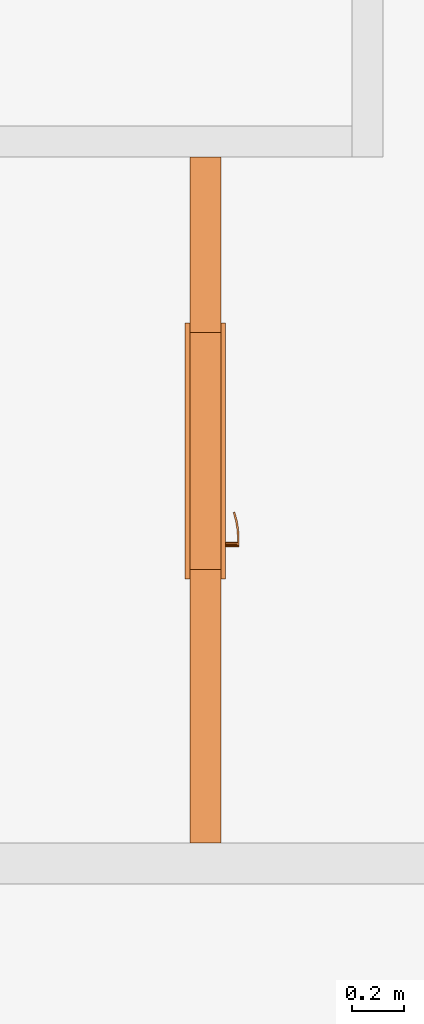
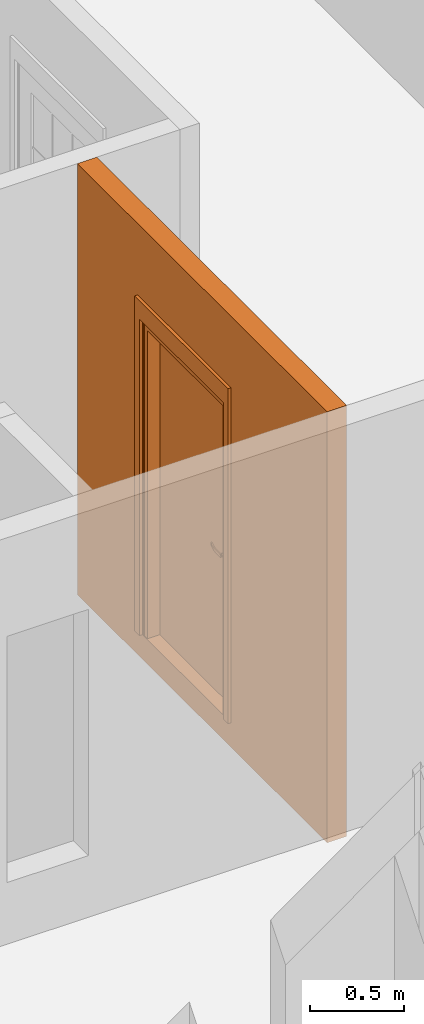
# One storey, part 27 of 61: 2 proxies, 1 opening.
"""IFC2X3 building model written with IfcOpenShell, lengths in millimetres."""

from ifc_helpers import new_model, entity, si_unit, converted_unit, derived_unit, money_unit, direction, frame, origin_with_axes, origin_2d_with_axis, place, context, subcontext, project, spatial, rectangle, extrude, open_shell, faceted_brep, surface_model, source, transform, mapped, material, type_object, element, fill, save


model = new_model("IFC2X3")

# Units and contexts
model_context = context("Model", 3, precision=0.01, world=origin_with_axes(), true_north=direction((0.34421633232, 0.938890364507)))
body_context = subcontext(model_context, "Body", "Model", "MODEL_VIEW")
ifc_project = project(units=[si_unit("LENGTHUNIT", "METRE", prefix="MILLI"), si_unit("AREAUNIT", "SQUARE_METRE"), si_unit("VOLUMEUNIT", "CUBIC_METRE"), converted_unit("PLANEANGLEUNIT", "DEGREE", entity("IfcPlaneAngleMeasure", 0.0174532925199), si_unit("PLANEANGLEUNIT", "RADIAN"), dimensions=[0, 0, 0, 0, 0, 0, 0]), si_unit("SOLIDANGLEUNIT", "STERADIAN"), money_unit("USD"), converted_unit("TIMEUNIT", "Year", entity("IfcTimeMeasure", 31556926.0), si_unit("TIMEUNIT", "SECOND"), dimensions=[0, 0, 1, 0, 0, 0, 0]), si_unit("MASSUNIT", "GRAM", prefix="KILO"), si_unit("THERMODYNAMICTEMPERATUREUNIT", "DEGREE_CELSIUS"), si_unit("LUMINOUSINTENSITYUNIT", "LUMEN"), si_unit("ENERGYUNIT", "JOULE", prefix="MEGA"), derived_unit("THERMALCONDUCTANCEUNIT", [(si_unit("POWERUNIT", "WATT"), 1), (si_unit("LENGTHUNIT", "METRE"), -1), (si_unit("THERMODYNAMICTEMPERATUREUNIT", "KELVIN"), -1)]), derived_unit("SPECIFICHEATCAPACITYUNIT", [(si_unit("ENERGYUNIT", "JOULE"), 1), (si_unit("MASSUNIT", "GRAM", prefix="KILO"), -1), (si_unit("THERMODYNAMICTEMPERATUREUNIT", "KELVIN"), -1)]), derived_unit("MASSDENSITYUNIT", [(si_unit("MASSUNIT", "GRAM", prefix="KILO"), 1), (si_unit("VOLUMEUNIT", "CUBIC_METRE"), -1)])], contexts=[model_context])

# Site, building, storey
site_placement = place(None, origin_with_axes())
site = spatial("IfcSite", under=ifc_project, at=site_placement, Name="USTRONIE MORSKIE", CompositionType="ELEMENT")
building_placement = place(site_placement, origin_with_axes())
building = spatial("IfcBuilding", under=site, at=building_placement, Name="Budynek", CompositionType="ELEMENT")
storey_placement = place(building_placement, frame((0.0, 0.0, 13000.0), z_axis=(0.0, 0.0, 1.0), x_axis=(1.0, 0.0, 0.0)))
storey = spatial("IfcBuildingStorey", under=building, at=storey_placement, Name="PIĘTRO 4", CompositionType="ELEMENT", Elevation=13000.0)

# Proxies, opening
ifc_material = material(Name="Bloczki silikatowe")
building_element_proxy_type_1 = type_object("IfcBuildingElementProxyType", Name="Bloczki silikatowe 120", PredefinedType="NOTDEFINED")
proxy_1_placement = place(storey_placement, frame((404537.920919, 739651.199937, -160.0), z_axis=(0.0, 0.0, 1.0), x_axis=(0.0, -1.0, 0.0)))
proxy_1 = element("IfcBuildingElementProxy", 1, at=proxy_1_placement, inside=storey, type_object=building_element_proxy_type_1, material=ifc_material, Name="SW-04", context=body_context, shape_type="Brep", body=[
    faceted_brep([(2720.00090117, 60.0, 0.0), (2720.00090117, -60.0, 0.0), (59.9999999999, -60.0, 0.0), (59.9999999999, 60.0, 0.0), (2720.00090117, 60.0, 2800.0), (2720.00090117, -60.0, 2800.0), (59.9999999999, -60.0, 2800.0), (59.9999999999, 60.0, 2800.0)], [[[0, 1, 2, 3]], [[1, 0, 4, 5]], [[1, 5, 6, 2]], [[7, 3, 2, 6]], [[4, 0, 3, 7]], [[5, 4, 7, 6]]]),
])
opening_placement = place(proxy_1_placement, frame((1200.00090117, 0.0, 160.0), z_axis=(0.0, 0.0, 1.0), x_axis=(1.0, 0.0, 0.0)))
opening = element("IfcOpeningElement", 2, at=opening_placement, cuts=proxy_1, Name="Dw.4", context=body_context, shape_type="SweptSolid", body=[
    extrude(rectangle(XDim=920.0, YDim=2070.0, at=origin_2d_with_axis()), frame((0.0, -120.0, 1035.0), z_axis=(0.0, -1.0, 0.0), x_axis=(-1.0, 0.0, 0.0)), (0.0, 0.0, -1.0), 360.0),
    extrude(rectangle(XDim=994.0, YDim=2177.0, at=origin_2d_with_axis()), frame((0.0, -60.0, 1088.5), z_axis=(0.0, -1.0, 0.0), x_axis=(-1.0, 0.0, 0.0)), (0.0, 0.0, 1.0), 120.0),
    extrude(rectangle(XDim=994.0, YDim=2177.0, at=origin_2d_with_axis()), frame((0.0, 60.0, 1088.5), z_axis=(0.0, 1.0, 0.0), x_axis=(-1.0, 0.0, 0.0)), (0.0, 0.0, 1.0), 120.0),
])
building_element_proxy_type_2 = type_object("IfcBuildingElementProxyType", Name="Drzwi 23", PredefinedType="NOTDEFINED")
shared_shape = source(origin_with_axes(), body_context, "Body", "SurfaceModel", [
    faceted_brep([(460.0, -115.0, 0.0), (460.0, -120.0, 0.0), (435.0, -120.0, 0.0), (435.0, -115.0, 0.0), (460.0, -115.0, 2070.0), (460.0, -120.0, 2070.0), (435.0, -120.0, 2045.0), (435.0, -115.0, 2045.0)], [[[0, 1, 2, 3]], [[4, 5, 1, 0]], [[1, 5, 6, 2]], [[3, 2, 6, 7]], [[0, 3, 7, 4]], [[7, 6, 5, 4]]]),
    faceted_brep([(-460.0, -115.0, 2070.0), (-460.0, -120.0, 2070.0), (-435.0, -120.0, 2045.0), (-435.0, -115.0, 2045.0), (-460.0, -115.0, 0.0), (-460.0, -120.0, 0.0), (-435.0, -120.0, 0.0), (-435.0, -115.0, 0.0)], [[[0, 1, 2, 3]], [[4, 5, 1, 0]], [[1, 5, 6, 2]], [[3, 2, 6, 7]], [[0, 3, 7, 4]], [[7, 6, 5, 4]]]),
    faceted_brep([(435.0, -115.0, 2045.0), (435.0, -120.0, 2045.0), (-435.0, -120.0, 2045.0), (-435.0, -115.0, 2045.0), (460.0, -115.0, 2070.0), (460.0, -120.0, 2070.0), (-460.0, -120.0, 2070.0), (-460.0, -115.0, 2070.0)], [[[0, 1, 2, 3]], [[4, 5, 1, 0]], [[1, 5, 6, 2]], [[3, 2, 6, 7]], [[0, 3, 7, 4]], [[7, 6, 5, 4]]]),
    faceted_brep([(497.0, -139.0, 0.0), (447.0, -139.0, 0.0), (447.0, -120.0, 0.0), (497.0, -120.0, 0.0), (497.0, -139.0, 2177.0), (447.0, -139.0, 2057.0), (447.0, -120.0, 2057.0), (497.0, -120.0, 2177.0)], [[[0, 1, 2, 3]], [[0, 4, 5, 1]], [[1, 5, 6, 2]], [[3, 2, 6, 7]], [[4, 0, 3, 7]], [[5, 4, 7, 6]]]),
    faceted_brep([(-497.0, -139.0, 2177.0), (-447.0, -139.0, 2057.0), (-447.0, -120.0, 2057.0), (-497.0, -120.0, 2177.0), (-497.0, -139.0, 0.0), (-447.0, -139.0, 0.0), (-447.0, -120.0, 0.0), (-497.0, -120.0, 0.0)], [[[0, 1, 2, 3]], [[0, 4, 5, 1]], [[1, 5, 6, 2]], [[3, 2, 6, 7]], [[4, 0, 3, 7]], [[5, 4, 7, 6]]]),
    faceted_brep([(497.0, -139.0, 2177.0), (447.0, -139.0, 2057.0), (447.0, -120.0, 2057.0), (497.0, -120.0, 2177.0), (-497.0, -139.0, 2177.0), (-447.0, -139.0, 2057.0), (-447.0, -120.0, 2057.0), (-497.0, -120.0, 2177.0)], [[[0, 1, 2, 3]], [[0, 4, 5, 1]], [[1, 5, 6, 2]], [[3, 2, 6, 7]], [[4, 0, 3, 7]], [[5, 4, 7, 6]]]),
    faceted_brep([(497.0, 19.0, 0.0), (497.0, 0.0, 0.0), (447.0, 0.0, 0.0), (447.0, 19.0, 0.0), (497.0, 19.0, 2177.0), (497.0, 0.0, 2177.0), (447.0, 0.0, 2057.0), (447.0, 19.0, 2057.0)], [[[0, 1, 2, 3]], [[4, 5, 1, 0]], [[1, 5, 6, 2]], [[3, 2, 6, 7]], [[0, 3, 7, 4]], [[7, 6, 5, 4]]]),
    faceted_brep([(-497.0, 19.0, 2177.0), (-497.0, 0.0, 2177.0), (-447.0, 0.0, 2057.0), (-447.0, 19.0, 2057.0), (-497.0, 19.0, 0.0), (-497.0, 0.0, 0.0), (-447.0, 0.0, 0.0), (-447.0, 19.0, 0.0)], [[[0, 1, 2, 3]], [[4, 5, 1, 0]], [[1, 5, 6, 2]], [[3, 2, 6, 7]], [[0, 3, 7, 4]], [[7, 6, 5, 4]]]),
    faceted_brep([(497.0, 19.0, 2177.0), (497.0, 0.0, 2177.0), (447.0, 0.0, 2057.0), (447.0, 19.0, 2057.0), (-497.0, 19.0, 2177.0), (-497.0, 0.0, 2177.0), (-447.0, 0.0, 2057.0), (-447.0, 19.0, 2057.0)], [[[0, 1, 2, 3]], [[4, 5, 1, 0]], [[1, 5, 6, 2]], [[3, 2, 6, 7]], [[0, 3, 7, 4]], [[7, 6, 5, 4]]]),
    faceted_brep([(400.0, -40.0, 0.0), (400.0, -115.0, 0.0), (400.0, -115.0, 2000.0), (400.0, -40.0, 2000.0), (412.0, -40.0, 0.0), (412.0, 0.0, 0.0), (460.0, 0.0, 0.0), (460.0, -115.0, 0.0), (460.0, -115.0, 2000.0), (412.0, -40.0, 2000.0), (460.0, 0.0, 2000.0), (412.0, 0.0, 2000.0)], [[[0, 1, 2, 3]], [[4, 5, 6, 7, 1, 0]], [[1, 7, 8, 2]], [[9, 3, 2, 8, 10, 11]], [[9, 4, 0, 3]], [[11, 5, 4, 9]], [[11, 10, 6, 5]], [[6, 10, 8, 7]]]),
    faceted_brep([(-412.0, -40.0, 2000.0), (-412.0, 0.0, 2000.0), (-460.0, 0.0, 2000.0), (-460.0, -115.0, 2000.0), (-400.0, -115.0, 2000.0), (-400.0, -40.0, 2000.0), (-412.0, -40.0, 0.0), (-412.0, 0.0, 0.0), (-460.0, 0.0, 0.0), (-460.0, -115.0, 0.0), (-400.0, -115.0, 0.0), (-400.0, -40.0, 0.0)], [[[0, 1, 2, 3, 4, 5]], [[0, 6, 7, 1]], [[7, 8, 2, 1]], [[2, 8, 9, 3]], [[3, 9, 10, 4]], [[5, 4, 10, 11]], [[5, 11, 6, 0]], [[6, 11, 10, 9, 8, 7]]]),
    faceted_brep([(412.0, 0.0, 2012.0), (-412.0, 0.0, 2012.0), (-412.0, 0.0, 2000.0), (-460.0, 0.0, 2000.0), (-460.0, 0.0, 2070.0), (460.0, 0.0, 2070.0), (460.0, 0.0, 2000.0), (412.0, 0.0, 2000.0), (412.0, -40.0, 2012.0), (-412.0, -40.0, 2012.0), (-412.0, -40.0, 2000.0), (-400.0, -40.0, 2000.0), (-400.0, -115.0, 2000.0), (-460.0, -115.0, 2000.0), (-460.0, -115.0, 2070.0), (460.0, -115.0, 2070.0), (460.0, -115.0, 2000.0), (412.0, -40.0, 2000.0), (400.0, -115.0, 2000.0), (400.0, -40.0, 2000.0)], [[[0, 1, 2, 3, 4, 5, 6, 7]], [[0, 8, 9, 1]], [[1, 9, 10, 2]], [[10, 11, 12, 13, 3, 2]], [[4, 3, 13, 14]], [[5, 4, 14, 15]], [[6, 5, 15, 16]], [[17, 7, 6, 16, 18, 19]], [[7, 17, 8, 0]], [[10, 9, 8, 17, 19, 11]], [[19, 18, 12, 11]], [[12, 18, 16, 15, 14, 13]]]),
    faceted_brep([(390.5, -40.0, 1060.0), (333.5, -40.0, 1060.0), (333.5, -43.0, 1060.0), (390.5, -43.0, 1060.0), (390.5, -40.0, 870.0), (333.5, -40.0, 870.0), (333.5, -43.0, 870.0), (390.5, -43.0, 870.0)], [[[0, 1, 2, 3]], [[0, 4, 5, 1]], [[1, 5, 6, 2]], [[3, 2, 6, 7]], [[4, 0, 3, 7]], [[5, 4, 7, 6]]]),
    faceted_brep([(362.0, -104.0, 990.0), (367.0, -104.0, 991.339745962), (367.0, -111.0, 991.339745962), (362.0, -111.0, 990.0), (337.0, -104.0, 990.0), (337.0, -104.0, 1010.0), (362.0, -104.0, 1010.0), (367.0, -104.0, 1008.66025404), (370.660254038, -104.0, 1005.0), (372.0, -104.0, 1000.0), (370.660254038, -104.0, 995.0), (370.660254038, -111.0, 995.0), (372.0, -111.0, 1000.0), (370.660254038, -111.0, 1005.0), (367.0, -111.0, 1008.66025404), (362.0, -111.0, 1010.0), (337.0, -111.0, 1010.0), (337.0, -111.0, 990.0)], [[[0, 1, 2, 3]], [[0, 4, 5, 6, 7, 8, 9, 10, 1]], [[1, 10, 11, 2]], [[3, 2, 11, 12, 13, 14, 15, 16, 17]], [[4, 0, 3, 17]], [[5, 4, 17, 16]], [[6, 5, 16, 15]], [[7, 6, 15, 14]], [[8, 7, 14, 13]], [[9, 8, 13, 12]], [[10, 9, 12, 11]]]),
    surface_model("IfcShellBasedSurfaceModel", [(337.0, -104.0, 1010.0), (323.901717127, -104.0, 1009.60730092), (323.596090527, -111.0, 1009.60730092), (337.0, -104.0, 990.0), (323.901717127, -104.0, 990.392699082), (296.890283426, -108.663544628, 1008.82190275), (337.0, -111.0, 1010.0), (337.0, -111.0, 990.0), (297.804837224, -101.716818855, 991.178097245), (297.804837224, -101.716818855, 1008.82190275), (296.890283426, -108.663544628, 991.178097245), (323.596090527, -111.0, 990.392699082), (272.006256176, -97.1678329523, 991.963495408), (272.006256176, -97.1678329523, 1008.03650459), (270.489735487, -104.008415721, 1008.03650459), (270.489735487, -104.008415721, 991.963495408), (246.702316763, -90.3876628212, 992.748893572), (246.702316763, -90.3876628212, 1007.25110643), (244.59537082, -97.0700416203, 1007.25110643), (244.59537082, -97.0700416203, 992.748893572), (238.829442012, -87.5221707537, 993.0), (238.829442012, -87.5221707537, 1007.0), (236.538795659, -94.1376880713, 1007.0), (236.538795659, -94.1376880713, 993.0)], [open_shell([[[0, 1, 2]], [[0, 3, 4, 1]], [[1, 5, 2]], [[0, 2, 6]], [[4, 3, 7]], [[1, 4, 8, 9]], [[1, 9, 5]], [[2, 5, 10, 11]], [[6, 2, 11, 7]], [[4, 7, 11]], [[8, 4, 11]], [[9, 8, 12, 13]], [[9, 14, 5]], [[5, 14, 15, 10]], [[8, 11, 10]], [[12, 8, 10]], [[13, 12, 16, 17]], [[9, 13, 14]], [[14, 18, 19, 15]], [[12, 10, 15]], [[16, 12, 15]], [[17, 16, 20, 21]], [[13, 17, 18]], [[13, 18, 14]], [[18, 22, 23, 19]], [[16, 15, 19]], [[20, 16, 19]], [[21, 20, 23, 22]], [[17, 21, 22]], [[17, 22, 18]], [[20, 19, 23]]])]),
    faceted_brep([(351.607695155, -53.0, 994.0), (350.0, -53.0, 1000.0), (349.0, -43.0, 1000.0), (350.741669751, -43.0, 993.5), (356.0, -53.0, 989.607695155), (362.0, -53.0, 988.0), (368.0, -53.0, 989.607695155), (372.392304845, -53.0, 994.0), (374.0, -53.0, 1000.0), (372.392304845, -53.0, 1006.0), (368.0, -53.0, 1010.39230485), (362.0, -53.0, 1012.0), (356.0, -53.0, 1010.39230485), (351.607695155, -53.0, 1006.0), (350.741669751, -43.0, 1006.5), (355.5, -43.0, 1011.25833025), (362.0, -43.0, 1013.0), (368.5, -43.0, 1011.25833025), (373.258330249, -43.0, 1006.5), (375.0, -43.0, 1000.0), (373.258330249, -43.0, 993.5), (368.5, -43.0, 988.741669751), (362.0, -43.0, 987.0), (355.5, -43.0, 988.741669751)], [[[0, 1, 2, 3]], [[1, 0, 4, 5, 6, 7, 8, 9, 10, 11, 12, 13]], [[1, 13, 14, 2]], [[2, 14, 15, 16, 17, 18, 19, 20, 21, 22, 23, 3]], [[4, 0, 3, 23]], [[5, 4, 23, 22]], [[6, 5, 22, 21]], [[7, 6, 21, 20]], [[8, 7, 20, 19]], [[9, 8, 19, 18]], [[10, 9, 18, 17]], [[11, 10, 17, 16]], [[12, 11, 16, 15]], [[13, 12, 15, 14]]]),
    faceted_brep([(344.679491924, -47.0, 895.0), (342.0, -47.0, 905.0), (340.0, -43.0, 905.0), (342.947441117, -43.0, 894.0), (352.0, -47.0, 887.679491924), (362.0, -47.0, 885.0), (372.0, -47.0, 887.679491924), (379.320508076, -47.0, 895.0), (382.0, -47.0, 905.0), (379.320508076, -47.0, 915.0), (372.0, -47.0, 922.320508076), (362.0, -47.0, 925.0), (352.0, -47.0, 922.320508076), (344.679491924, -47.0, 915.0), (342.947441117, -43.0, 916.0), (351.0, -43.0, 924.052558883), (362.0, -43.0, 927.0), (373.0, -43.0, 924.052558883), (381.052558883, -43.0, 916.0), (384.0, -43.0, 905.0), (381.052558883, -43.0, 894.0), (373.0, -43.0, 885.947441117), (362.0, -43.0, 883.0), (351.0, -43.0, 885.947441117)], [[[0, 1, 2, 3]], [[1, 0, 4, 5, 6, 7, 8, 9, 10, 11, 12, 13]], [[1, 13, 14, 2]], [[2, 14, 15, 16, 17, 18, 19, 20, 21, 22, 23, 3]], [[4, 0, 3, 23]], [[5, 4, 23, 22]], [[6, 5, 22, 21]], [[7, 6, 21, 20]], [[8, 7, 20, 19]], [[9, 8, 19, 18]], [[10, 9, 18, 17]], [[11, 10, 17, 16]], [[12, 11, 16, 15]], [[13, 12, 15, 14]]]),
    faceted_brep([(357.050252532, -49.0, 909.050252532), (355.0, -49.0, 914.0), (354.0, -47.0, 914.0), (356.343145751, -47.0, 908.343145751), (362.0, -49.0, 907.0), (366.949747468, -49.0, 909.050252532), (369.0, -49.0, 914.0), (366.949747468, -49.0, 918.949747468), (362.0, -49.0, 921.0), (357.050252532, -49.0, 918.949747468), (356.343145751, -47.0, 919.656854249), (362.0, -47.0, 922.0), (367.656854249, -47.0, 919.656854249), (370.0, -47.0, 914.0), (367.656854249, -47.0, 908.343145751), (362.0, -47.0, 906.0)], [[[0, 1, 2, 3]], [[1, 0, 4, 5, 6, 7, 8, 9]], [[1, 9, 10, 2]], [[2, 10, 11, 12, 13, 14, 15, 3]], [[4, 0, 3, 15]], [[5, 4, 15, 14]], [[6, 5, 14, 13]], [[7, 6, 13, 12]], [[8, 7, 12, 11]], [[9, 8, 11, 10]]]),
    faceted_brep([(362.0, -53.0, 1010.0), (357.0, -53.0, 1008.66025404), (357.0, -104.0, 1008.66025404), (362.0, -104.0, 1010.0), (367.0, -53.0, 1008.66025404), (370.660254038, -53.0, 1005.0), (372.0, -53.0, 1000.0), (370.660254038, -53.0, 995.0), (367.0, -53.0, 991.339745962), (362.0, -53.0, 990.0), (357.0, -53.0, 991.339745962), (353.339745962, -53.0, 995.0), (352.0, -53.0, 1000.0), (353.339745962, -53.0, 1005.0), (353.339745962, -104.0, 1005.0), (352.0, -104.0, 1000.0), (353.339745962, -104.0, 995.0), (357.0, -104.0, 991.339745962), (362.0, -104.0, 990.0), (367.0, -104.0, 991.339745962), (370.660254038, -104.0, 995.0), (372.0, -104.0, 1000.0), (370.660254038, -104.0, 1005.0), (367.0, -104.0, 1008.66025404)], [[[0, 1, 2, 3]], [[0, 4, 5, 6, 7, 8, 9, 10, 11, 12, 13, 1]], [[1, 13, 14, 2]], [[3, 2, 14, 15, 16, 17, 18, 19, 20, 21, 22, 23]], [[4, 0, 3, 23]], [[5, 4, 23, 22]], [[6, 5, 22, 21]], [[7, 6, 21, 20]], [[8, 7, 20, 19]], [[9, 8, 19, 18]], [[10, 9, 18, 17]], [[11, 10, 17, 16]], [[12, 11, 16, 15]], [[13, 12, 15, 14]]]),
    faceted_brep([(390.5, 0.0, 1060.0), (390.5, 3.0, 1060.0), (333.5, 3.0, 1060.0), (333.5, 0.0, 1060.0), (390.5, 0.0, 870.0), (390.5, 3.0, 870.0), (333.5, 3.0, 870.0), (333.5, 0.0, 870.0)], [[[0, 1, 2, 3]], [[4, 5, 1, 0]], [[1, 5, 6, 2]], [[3, 2, 6, 7]], [[0, 3, 7, 4]], [[7, 6, 5, 4]]]),
    faceted_brep([(362.0, 64.0, 990.0), (362.0, 71.0, 990.0), (367.0, 71.0, 991.339745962), (367.0, 64.0, 991.339745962), (337.0, 64.0, 990.0), (337.0, 71.0, 990.0), (337.0, 71.0, 1010.0), (362.0, 71.0, 1010.0), (367.0, 71.0, 1008.66025404), (370.660254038, 71.0, 1005.0), (372.0, 71.0, 1000.0), (370.660254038, 71.0, 995.0), (370.660254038, 64.0, 995.0), (372.0, 64.0, 1000.0), (370.660254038, 64.0, 1005.0), (367.0, 64.0, 1008.66025404), (362.0, 64.0, 1010.0), (337.0, 64.0, 1010.0)], [[[0, 1, 2, 3]], [[4, 5, 1, 0]], [[1, 5, 6, 7, 8, 9, 10, 11, 2]], [[3, 2, 11, 12]], [[0, 3, 12, 13, 14, 15, 16, 17, 4]], [[17, 6, 5, 4]], [[16, 7, 6, 17]], [[15, 8, 7, 16]], [[14, 9, 8, 15]], [[13, 10, 9, 14]], [[12, 11, 10, 13]]]),
    surface_model("IfcShellBasedSurfaceModel", [(337.0, 64.0, 1010.0), (323.596090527, 71.0, 1009.60730092), (323.901717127, 64.0, 1009.60730092), (337.0, 71.0, 1010.0), (296.890283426, 68.6635446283, 1008.82190275), (323.901717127, 64.0, 990.392699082), (337.0, 64.0, 990.0), (337.0, 71.0, 990.0), (323.596090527, 71.0, 990.392699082), (296.890283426, 68.6635446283, 991.178097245), (297.804837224, 61.716818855, 1008.82190275), (297.804837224, 61.716818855, 991.178097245), (270.489735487, 64.0084157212, 991.963495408), (270.489735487, 64.0084157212, 1008.03650459), (272.006256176, 57.1678329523, 1008.03650459), (272.006256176, 57.1678329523, 991.963495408), (244.59537082, 57.0700416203, 992.748893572), (244.59537082, 57.0700416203, 1007.25110643), (246.702316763, 50.3876628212, 1007.25110643), (246.702316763, 50.3876628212, 992.748893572), (236.538795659, 54.1376880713, 993.0), (236.538795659, 54.1376880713, 1007.0), (238.829442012, 47.5221707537, 1007.0), (238.829442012, 47.5221707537, 993.0)], [open_shell([[[0, 1, 2]], [[0, 3, 1]], [[2, 1, 4]], [[0, 2, 5, 6]], [[3, 7, 8, 1]], [[1, 8, 9, 4]], [[2, 4, 10]], [[2, 10, 11, 5]], [[5, 7, 6]], [[5, 8, 7]], [[11, 9, 8]], [[4, 9, 12, 13]], [[10, 4, 13]], [[10, 14, 15, 11]], [[11, 8, 5]], [[15, 9, 11]], [[15, 12, 9]], [[13, 12, 16, 17]], [[10, 13, 14]], [[14, 18, 19, 15]], [[19, 12, 15]], [[19, 16, 12]], [[17, 16, 20, 21]], [[14, 13, 17]], [[14, 17, 18]], [[18, 22, 23, 19]], [[23, 16, 19]], [[23, 20, 16]], [[22, 21, 20, 23]], [[18, 17, 21]], [[18, 21, 22]]])]),
    faceted_brep([(351.607695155, 13.0, 994.0), (350.741669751, 3.0, 993.5), (349.0, 3.0, 1000.0), (350.0, 13.0, 1000.0), (356.0, 13.0, 989.607695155), (355.5, 3.0, 988.741669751), (362.0, 3.0, 987.0), (368.5, 3.0, 988.741669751), (373.258330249, 3.0, 993.5), (375.0, 3.0, 1000.0), (373.258330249, 3.0, 1006.5), (368.5, 3.0, 1011.25833025), (362.0, 3.0, 1013.0), (355.5, 3.0, 1011.25833025), (350.741669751, 3.0, 1006.5), (351.607695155, 13.0, 1006.0), (356.0, 13.0, 1010.39230485), (362.0, 13.0, 1012.0), (368.0, 13.0, 1010.39230485), (372.392304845, 13.0, 1006.0), (374.0, 13.0, 1000.0), (372.392304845, 13.0, 994.0), (368.0, 13.0, 989.607695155), (362.0, 13.0, 988.0)], [[[0, 1, 2, 3]], [[4, 5, 1, 0]], [[2, 1, 5, 6, 7, 8, 9, 10, 11, 12, 13, 14]], [[3, 2, 14, 15]], [[3, 15, 16, 17, 18, 19, 20, 21, 22, 23, 4, 0]], [[23, 6, 5, 4]], [[22, 7, 6, 23]], [[21, 8, 7, 22]], [[20, 9, 8, 21]], [[19, 10, 9, 20]], [[18, 11, 10, 19]], [[17, 12, 11, 18]], [[16, 13, 12, 17]], [[15, 14, 13, 16]]]),
    faceted_brep([(344.679491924, 7.0, 895.0), (342.947441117, 3.0, 894.0), (340.0, 3.0, 905.0), (342.0, 7.0, 905.0), (352.0, 7.0, 887.679491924), (351.0, 3.0, 885.947441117), (362.0, 3.0, 883.0), (373.0, 3.0, 885.947441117), (381.052558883, 3.0, 894.0), (384.0, 3.0, 905.0), (381.052558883, 3.0, 916.0), (373.0, 3.0, 924.052558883), (362.0, 3.0, 927.0), (351.0, 3.0, 924.052558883), (342.947441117, 3.0, 916.0), (344.679491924, 7.0, 915.0), (352.0, 7.0, 922.320508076), (362.0, 7.0, 925.0), (372.0, 7.0, 922.320508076), (379.320508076, 7.0, 915.0), (382.0, 7.0, 905.0), (379.320508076, 7.0, 895.0), (372.0, 7.0, 887.679491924), (362.0, 7.0, 885.0)], [[[0, 1, 2, 3]], [[4, 5, 1, 0]], [[2, 1, 5, 6, 7, 8, 9, 10, 11, 12, 13, 14]], [[3, 2, 14, 15]], [[3, 15, 16, 17, 18, 19, 20, 21, 22, 23, 4, 0]], [[23, 6, 5, 4]], [[22, 7, 6, 23]], [[21, 8, 7, 22]], [[20, 9, 8, 21]], [[19, 10, 9, 20]], [[18, 11, 10, 19]], [[17, 12, 11, 18]], [[16, 13, 12, 17]], [[15, 14, 13, 16]]]),
    faceted_brep([(357.050252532, 9.0, 909.050252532), (356.343145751, 7.0, 908.343145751), (354.0, 7.0, 914.0), (355.0, 9.0, 914.0), (362.0, 9.0, 907.0), (362.0, 7.0, 906.0), (367.656854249, 7.0, 908.343145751), (370.0, 7.0, 914.0), (367.656854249, 7.0, 919.656854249), (362.0, 7.0, 922.0), (356.343145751, 7.0, 919.656854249), (357.050252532, 9.0, 918.949747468), (362.0, 9.0, 921.0), (366.949747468, 9.0, 918.949747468), (369.0, 9.0, 914.0), (366.949747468, 9.0, 909.050252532)], [[[0, 1, 2, 3]], [[4, 5, 1, 0]], [[2, 1, 5, 6, 7, 8, 9, 10]], [[3, 2, 10, 11]], [[3, 11, 12, 13, 14, 15, 4, 0]], [[15, 6, 5, 4]], [[14, 7, 6, 15]], [[13, 8, 7, 14]], [[12, 9, 8, 13]], [[11, 10, 9, 12]]]),
    faceted_brep([(362.0, 13.0, 1010.0), (362.0, 64.0, 1010.0), (357.0, 64.0, 1008.66025404), (357.0, 13.0, 1008.66025404), (367.0, 13.0, 1008.66025404), (367.0, 64.0, 1008.66025404), (370.660254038, 64.0, 1005.0), (372.0, 64.0, 1000.0), (370.660254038, 64.0, 995.0), (367.0, 64.0, 991.339745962), (362.0, 64.0, 990.0), (357.0, 64.0, 991.339745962), (353.339745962, 64.0, 995.0), (352.0, 64.0, 1000.0), (353.339745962, 64.0, 1005.0), (353.339745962, 13.0, 1005.0), (352.0, 13.0, 1000.0), (353.339745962, 13.0, 995.0), (357.0, 13.0, 991.339745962), (362.0, 13.0, 990.0), (367.0, 13.0, 991.339745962), (370.660254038, 13.0, 995.0), (372.0, 13.0, 1000.0), (370.660254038, 13.0, 1005.0)], [[[0, 1, 2, 3]], [[4, 5, 1, 0]], [[1, 5, 6, 7, 8, 9, 10, 11, 12, 13, 14, 2]], [[3, 2, 14, 15]], [[0, 3, 15, 16, 17, 18, 19, 20, 21, 22, 23, 4]], [[23, 6, 5, 4]], [[22, 7, 6, 23]], [[21, 8, 7, 22]], [[20, 9, 8, 21]], [[19, 10, 9, 20]], [[18, 11, 10, 19]], [[17, 12, 11, 18]], [[16, 13, 12, 17]], [[15, 14, 13, 16]]]),
    faceted_brep([(-412.0, 0.0, 0.0), (412.0, 0.0, 0.0), (412.0, -40.0, 0.0), (-412.0, -40.0, 0.0), (-412.0, 0.0, 2012.0), (412.0, 0.0, 2012.0), (412.0, -40.0, 2012.0), (-412.0, -40.0, 2012.0)], [[[0, 1, 2, 3]], [[0, 4, 5, 1]], [[1, 5, 6, 2]], [[3, 2, 6, 7]], [[4, 0, 3, 7]], [[5, 4, 7, 6]]]),
])
proxy_2_placement = place(opening_placement, frame((-400.0, 0.0, 0.0), z_axis=(0.0, 0.0, 1.0), x_axis=(1.0, 0.0, 0.0)))
proxy_2 = element("IfcBuildingElementProxy", 3, at=proxy_2_placement, inside=storey, type_object=building_element_proxy_type_2, Name="Dw.4", context=body_context, shape_type="MappedRepresentation", body=[
    mapped(shared_shape, transform((400.0, 60.0, 0.0))),
])
fill(opening, proxy_2)

save(model, "model.ifc")
